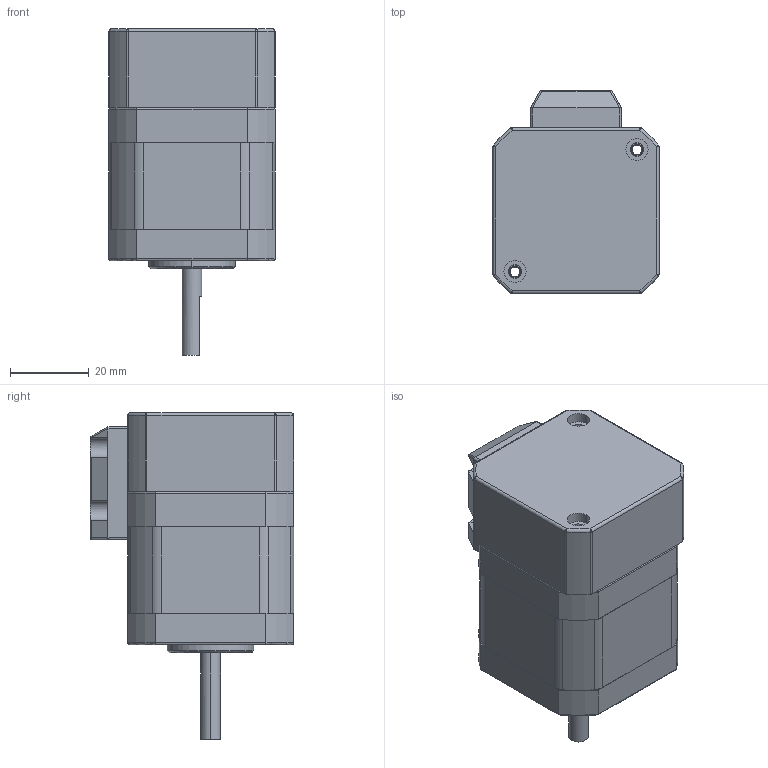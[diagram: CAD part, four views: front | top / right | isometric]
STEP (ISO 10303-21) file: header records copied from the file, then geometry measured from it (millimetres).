
FILE_DESCRIPTION (( 'STEP AP214' ), '1' );
FILE_NAME ('S42-40-M3 .STEP', '2024-12-13T02:37:17', ( 'Muse' ), ( 'Muse' ), 'SwSTEP 2.0', 'SolidWorks 2020', '' );
FILE_SCHEMA (( 'AUTOMOTIVE_DESIGN' ));
Length unit declared in the file: millimetre
Products named in the file (10): 晤鎢ん郪璃; 蛌赽郪璃; S42-40-M3 ; 蛌粣; 4B0421004 42-30-1.8 隅赽_42--30-1.8 隅赽; 4B0420003 萇蚞ヶ裔_萇蚞ヶ裔; 605 粣創; 4B0420004 电泳后盖_电泳后盖; 42邧謂揤盄啣; 42綴欶
Assembly tree (10 placements, depth 3):
  S42-40-M3 
    4B0420004 电泳后盖_电泳后盖
    蛌赽郪璃
      蛌粣
      605 粣創  x2
    4B0421004 42-30-1.8 隅赽_42--30-1.8 隅赽
    4B0420003 萇蚞ヶ裔_萇蚞ヶ裔
    晤鎢ん郪璃
      42綴欶
      42邧謂揤盄啣
Bounding box: 42.2 x 51.7 x 83 mm (x, y, z)
Volume: 45018.1 mm3; surface area: 43900.1 mm2
Topology: 9 solids, 9 shells, 1009 faces, 3034 edges, 1938 vertices
Faces by surface type: cylinder 519, plane 289, torus 100, sphere 90, cone 10, bspline 1
Entity records: 31319 total; most frequent: CARTESIAN_POINT 6071, DIRECTION 5312, ORIENTED_EDGE 5152, EDGE_CURVE 2576, AXIS2_PLACEMENT_3D 2039, VERTEX_POINT 1681, LINE 1234, VECTOR 1234
